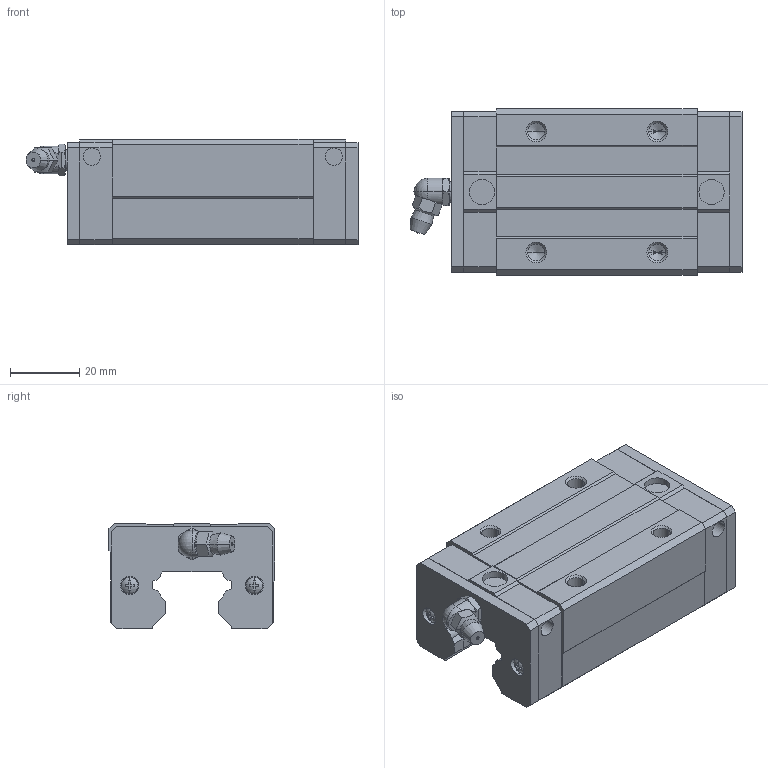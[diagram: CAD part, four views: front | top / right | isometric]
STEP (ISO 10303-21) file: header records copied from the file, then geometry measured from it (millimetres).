
FILE_DESCRIPTION(('starvars output'),'2;1');
FILE_NAME('cv20190625225103000111297.stp','22:51:03 2019/06/25',( 'Thomas Industrial Network Germany GmbH'),( 'Thomas Industrial Network Germany GmbH'),'unknown preprocess','ACIS' ,'unknown authorization');
FILE_SCHEMA(('CONFIG_CONTROL_DESIGN {UNKNOWN IMPLEMENTATION LEVEL}'));
Length unit declared in the file: millimetre
Products named in the file (10): PRODUCT_ID_1; PRODUCT_ID_2; PRODUCT_ID_3; PRODUCT_ID_4; PRODUCT_ID_5; PRODUCT_ID_6; PRODUCT_ID_7; PRODUCT_ID_8; PRODUCT_ID_9; PRODUCT_ID_10
Bounding box: 96 x 48 x 30.5 mm (x, y, z)
Volume: 92006.3 mm3; surface area: 28629.5 mm2
Topology: 10 solids, 10 shells, 389 faces, 1000 edges, 636 vertices
Faces by surface type: plane 250, cone 64, cylinder 63, sphere 12
Entity records: 11305 total; most frequent: ORIENTED_EDGE 1976, CARTESIAN_POINT 1853, DIRECTION 1539, EDGE_CURVE 988, VECTOR 643, LINE 643, VERTEX_POINT 636, AXIS2_PLACEMENT_3D 448
